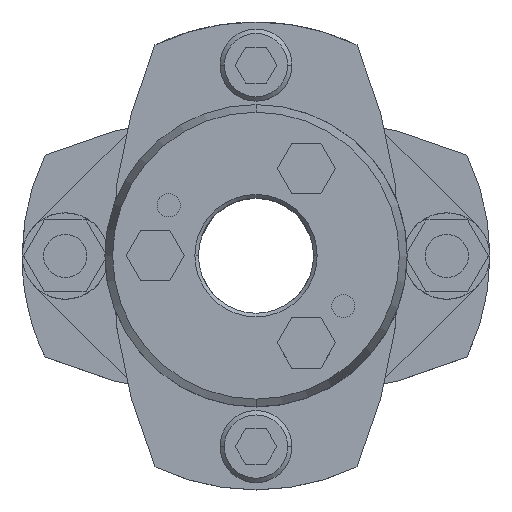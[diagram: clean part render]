
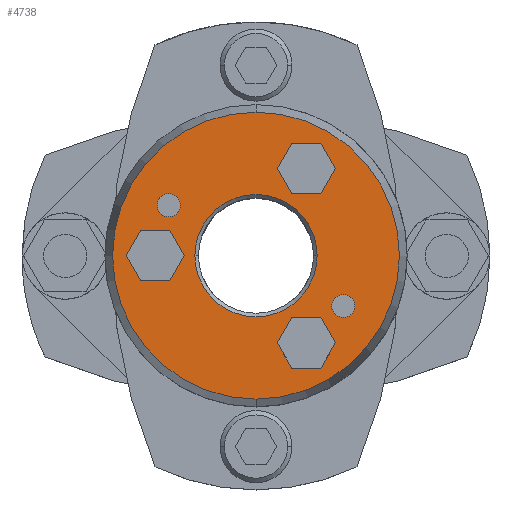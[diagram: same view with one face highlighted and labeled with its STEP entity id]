
A CAD part, top view. The second image highlights one B-rep face of the part: STEP entity #4738.
In plain terms, the highlighted planar face has unit normal (0, 0, 1).
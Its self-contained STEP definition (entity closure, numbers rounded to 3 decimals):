
#1004=CARTESIAN_POINT('',(0.,-19.928,30.75));
#1005=VERTEX_POINT('',#1004);
#1012=CARTESIAN_POINT('',(0.0,19.928,30.75));
#1013=VERTEX_POINT('',#1012);
#1014=CARTESIAN_POINT('',(0.0,0.,30.75));
#1015=DIRECTION('',(0.0,0.0,-1.0));
#1016=DIRECTION('',(0.0,-1.0,0.0));
#1017=AXIS2_PLACEMENT_3D('',#1014,#1015,#1016);
#1018=CIRCLE('',#1017,19.928);
#1019=EDGE_CURVE('',#1005,#1013,#1018,.T.);
#1114=CARTESIAN_POINT('',(-8.5,0.,30.75));
#1115=VERTEX_POINT('',#1114);
#1131=CARTESIAN_POINT('',(8.5,0.,30.75));
#1132=VERTEX_POINT('',#1131);
#1139=CARTESIAN_POINT('',(0.,0.,30.75));
#1140=DIRECTION('',(0.0,0.0,1.0));
#1141=DIRECTION('',(-1.0,0.0,0.0));
#1142=AXIS2_PLACEMENT_3D('',#1139,#1140,#1141);
#1143=CIRCLE('',#1142,8.5);
#1144=EDGE_CURVE('',#1132,#1115,#1143,.T.);
#1262=CARTESIAN_POINT('',(-13.724,7.,30.75));
#1263=VERTEX_POINT('',#1262);
#1279=CARTESIAN_POINT('',(-10.524,7.,30.75));
#1280=VERTEX_POINT('',#1279);
#1287=CARTESIAN_POINT('',(-12.124,7.,30.75));
#1288=DIRECTION('',(0.0,0.0,-1.0));
#1289=DIRECTION('',(-1.0,0.0,0.0));
#1290=AXIS2_PLACEMENT_3D('',#1287,#1288,#1289);
#1291=CIRCLE('',#1290,1.6);
#1292=EDGE_CURVE('',#1263,#1280,#1291,.T.);
#1304=CARTESIAN_POINT('',(10.524,-7.,30.75));
#1305=VERTEX_POINT('',#1304);
#1321=CARTESIAN_POINT('',(13.724,-7.,30.75));
#1322=VERTEX_POINT('',#1321);
#1329=CARTESIAN_POINT('',(12.124,-7.,30.75));
#1330=DIRECTION('',(0.0,0.0,-1.0));
#1331=DIRECTION('',(-1.0,0.0,0.0));
#1332=AXIS2_PLACEMENT_3D('',#1329,#1330,#1331);
#1333=CIRCLE('',#1332,1.6);
#1334=EDGE_CURVE('',#1305,#1322,#1333,.T.);
#3941=CARTESIAN_POINT('',(12.124,-7.,30.75));
#3942=DIRECTION('',(0.0,0.0,-1.0));
#3943=DIRECTION('',(-1.0,0.0,0.0));
#3944=AXIS2_PLACEMENT_3D('',#3941,#3942,#3943);
#3945=CIRCLE('',#3944,1.6);
#3946=EDGE_CURVE('',#1322,#1305,#3945,.T.);
#3975=CARTESIAN_POINT('',(-12.124,7.,30.75));
#3976=DIRECTION('',(0.0,0.0,-1.0));
#3977=DIRECTION('',(-1.0,0.0,0.0));
#3978=AXIS2_PLACEMENT_3D('',#3975,#3976,#3977);
#3979=CIRCLE('',#3978,1.6);
#3980=EDGE_CURVE('',#1280,#1263,#3979,.T.);
#4018=CARTESIAN_POINT('',(-18.041,0.,30.75));
#4019=VERTEX_POINT('',#4018);
#4026=CARTESIAN_POINT('',(-16.021,-3.5,30.75));
#4027=VERTEX_POINT('',#4026);
#4028=CARTESIAN_POINT('',(-16.021,-3.5,30.75));
#4029=DIRECTION('',(-0.5,0.866,0.0));
#4030=VECTOR('',#4029,4.041);
#4031=LINE('',#4028,#4030);
#4032=EDGE_CURVE('',#4027,#4019,#4031,.T.);
#4056=CARTESIAN_POINT('',(-16.021,3.5,30.75));
#4057=VERTEX_POINT('',#4056);
#4064=CARTESIAN_POINT('',(-18.041,0.,30.75));
#4065=DIRECTION('',(0.5,0.866,0.0));
#4066=VECTOR('',#4065,4.041);
#4067=LINE('',#4064,#4066);
#4068=EDGE_CURVE('',#4019,#4057,#4067,.T.);
#4087=CARTESIAN_POINT('',(-11.979,3.5,30.75));
#4088=VERTEX_POINT('',#4087);
#4095=CARTESIAN_POINT('',(-16.021,3.5,30.75));
#4096=DIRECTION('',(1.0,0.0,0.0));
#4097=VECTOR('',#4096,4.041);
#4098=LINE('',#4095,#4097);
#4099=EDGE_CURVE('',#4057,#4088,#4098,.T.);
#4118=CARTESIAN_POINT('',(-9.959,0.,30.75));
#4119=VERTEX_POINT('',#4118);
#4126=CARTESIAN_POINT('',(-11.979,3.5,30.75));
#4127=DIRECTION('',(0.5,-0.866,0.0));
#4128=VECTOR('',#4127,4.041);
#4129=LINE('',#4126,#4128);
#4130=EDGE_CURVE('',#4088,#4119,#4129,.T.);
#4149=CARTESIAN_POINT('',(-11.979,-3.5,30.75));
#4150=VERTEX_POINT('',#4149);
#4157=CARTESIAN_POINT('',(-9.959,0.,30.75));
#4158=DIRECTION('',(-0.5,-0.866,0.0));
#4159=VECTOR('',#4158,4.041);
#4160=LINE('',#4157,#4159);
#4161=EDGE_CURVE('',#4119,#4150,#4160,.T.);
#4179=CARTESIAN_POINT('',(-11.979,-3.5,30.75));
#4180=DIRECTION('',(-1.0,0.0,0.0));
#4181=VECTOR('',#4180,4.041);
#4182=LINE('',#4179,#4181);
#4183=EDGE_CURVE('',#4150,#4027,#4182,.T.);
#4218=CARTESIAN_POINT('',(2.959,-12.124,30.75));
#4219=VERTEX_POINT('',#4218);
#4226=CARTESIAN_POINT('',(4.979,-15.624,30.75));
#4227=VERTEX_POINT('',#4226);
#4228=CARTESIAN_POINT('',(4.979,-15.624,30.75));
#4229=DIRECTION('',(-0.5,0.866,0.0));
#4230=VECTOR('',#4229,4.041);
#4231=LINE('',#4228,#4230);
#4232=EDGE_CURVE('',#4227,#4219,#4231,.T.);
#4256=CARTESIAN_POINT('',(4.979,-8.624,30.75));
#4257=VERTEX_POINT('',#4256);
#4264=CARTESIAN_POINT('',(2.959,-12.124,30.75));
#4265=DIRECTION('',(0.5,0.866,0.0));
#4266=VECTOR('',#4265,4.041);
#4267=LINE('',#4264,#4266);
#4268=EDGE_CURVE('',#4219,#4257,#4267,.T.);
#4287=CARTESIAN_POINT('',(9.021,-8.624,30.75));
#4288=VERTEX_POINT('',#4287);
#4295=CARTESIAN_POINT('',(4.979,-8.624,30.75));
#4296=DIRECTION('',(1.0,0.0,0.0));
#4297=VECTOR('',#4296,4.041);
#4298=LINE('',#4295,#4297);
#4299=EDGE_CURVE('',#4257,#4288,#4298,.T.);
#4318=CARTESIAN_POINT('',(11.041,-12.124,30.75));
#4319=VERTEX_POINT('',#4318);
#4326=CARTESIAN_POINT('',(9.021,-8.624,30.75));
#4327=DIRECTION('',(0.5,-0.866,0.0));
#4328=VECTOR('',#4327,4.041);
#4329=LINE('',#4326,#4328);
#4330=EDGE_CURVE('',#4288,#4319,#4329,.T.);
#4349=CARTESIAN_POINT('',(9.021,-15.624,30.75));
#4350=VERTEX_POINT('',#4349);
#4357=CARTESIAN_POINT('',(11.041,-12.124,30.75));
#4358=DIRECTION('',(-0.5,-0.866,0.0));
#4359=VECTOR('',#4358,4.041);
#4360=LINE('',#4357,#4359);
#4361=EDGE_CURVE('',#4319,#4350,#4360,.T.);
#4379=CARTESIAN_POINT('',(9.021,-15.624,30.75));
#4380=DIRECTION('',(-1.0,0.0,0.0));
#4381=VECTOR('',#4380,4.041);
#4382=LINE('',#4379,#4381);
#4383=EDGE_CURVE('',#4350,#4227,#4382,.T.);
#4418=CARTESIAN_POINT('',(2.959,12.124,30.75));
#4419=VERTEX_POINT('',#4418);
#4426=CARTESIAN_POINT('',(4.979,8.624,30.75));
#4427=VERTEX_POINT('',#4426);
#4428=CARTESIAN_POINT('',(4.979,8.624,30.75));
#4429=DIRECTION('',(-0.5,0.866,0.0));
#4430=VECTOR('',#4429,4.041);
#4431=LINE('',#4428,#4430);
#4432=EDGE_CURVE('',#4427,#4419,#4431,.T.);
#4456=CARTESIAN_POINT('',(4.979,15.624,30.75));
#4457=VERTEX_POINT('',#4456);
#4464=CARTESIAN_POINT('',(2.959,12.124,30.75));
#4465=DIRECTION('',(0.5,0.866,0.0));
#4466=VECTOR('',#4465,4.041);
#4467=LINE('',#4464,#4466);
#4468=EDGE_CURVE('',#4419,#4457,#4467,.T.);
#4487=CARTESIAN_POINT('',(9.021,15.624,30.75));
#4488=VERTEX_POINT('',#4487);
#4495=CARTESIAN_POINT('',(4.979,15.624,30.75));
#4496=DIRECTION('',(1.0,0.0,0.0));
#4497=VECTOR('',#4496,4.041);
#4498=LINE('',#4495,#4497);
#4499=EDGE_CURVE('',#4457,#4488,#4498,.T.);
#4518=CARTESIAN_POINT('',(11.041,12.124,30.75));
#4519=VERTEX_POINT('',#4518);
#4526=CARTESIAN_POINT('',(9.021,15.624,30.75));
#4527=DIRECTION('',(0.5,-0.866,0.0));
#4528=VECTOR('',#4527,4.041);
#4529=LINE('',#4526,#4528);
#4530=EDGE_CURVE('',#4488,#4519,#4529,.T.);
#4549=CARTESIAN_POINT('',(9.021,8.624,30.75));
#4550=VERTEX_POINT('',#4549);
#4557=CARTESIAN_POINT('',(11.041,12.124,30.75));
#4558=DIRECTION('',(-0.5,-0.866,0.0));
#4559=VECTOR('',#4558,4.041);
#4560=LINE('',#4557,#4559);
#4561=EDGE_CURVE('',#4519,#4550,#4560,.T.);
#4579=CARTESIAN_POINT('',(9.021,8.624,30.75));
#4580=DIRECTION('',(-1.0,0.0,0.0));
#4581=VECTOR('',#4580,4.041);
#4582=LINE('',#4579,#4581);
#4583=EDGE_CURVE('',#4550,#4427,#4582,.T.);
#4675=CARTESIAN_POINT('',(0.,0.,30.75));
#4676=DIRECTION('',(0.0,0.0,1.0));
#4677=DIRECTION('',(-1.0,0.0,0.0));
#4678=AXIS2_PLACEMENT_3D('',#4675,#4676,#4677);
#4679=CIRCLE('',#4678,8.5);
#4680=EDGE_CURVE('',#1115,#1132,#4679,.T.);
#4687=CARTESIAN_POINT('',(0.,-9.964,30.75));
#4688=DIRECTION('',(0.0,0.0,1.0));
#4689=DIRECTION('',(-1.0,0.0,0.0));
#4690=AXIS2_PLACEMENT_3D('',#4687,#4688,#4689);
#4691=PLANE('',#4690);
#4692=ORIENTED_EDGE('',*,*,#1019,.F.);
#4693=CARTESIAN_POINT('',(0.0,0.,30.75));
#4694=DIRECTION('',(0.0,0.0,-1.0));
#4695=DIRECTION('',(0.0,-1.0,0.0));
#4696=AXIS2_PLACEMENT_3D('',#4693,#4694,#4695);
#4697=CIRCLE('',#4696,19.928);
#4698=EDGE_CURVE('',#1013,#1005,#4697,.T.);
#4699=ORIENTED_EDGE('',*,*,#4698,.F.);
#4700=EDGE_LOOP('',(#4692,#4699));
#4701=FACE_OUTER_BOUND('',#4700,.T.);
#4702=ORIENTED_EDGE('',*,*,#1334,.T.);
#4703=ORIENTED_EDGE('',*,*,#3946,.T.);
#4704=EDGE_LOOP('',(#4702,#4703));
#4705=FACE_BOUND('',#4704,.T.);
#4706=ORIENTED_EDGE('',*,*,#1292,.T.);
#4707=ORIENTED_EDGE('',*,*,#3980,.T.);
#4708=EDGE_LOOP('',(#4706,#4707));
#4709=FACE_BOUND('',#4708,.T.);
#4710=ORIENTED_EDGE('',*,*,#4032,.T.);
#4711=ORIENTED_EDGE('',*,*,#4068,.T.);
#4712=ORIENTED_EDGE('',*,*,#4099,.T.);
#4713=ORIENTED_EDGE('',*,*,#4130,.T.);
#4714=ORIENTED_EDGE('',*,*,#4161,.T.);
#4715=ORIENTED_EDGE('',*,*,#4183,.T.);
#4716=EDGE_LOOP('',(#4710,#4711,#4712,#4713,#4714,#4715));
#4717=FACE_BOUND('',#4716,.T.);
#4718=ORIENTED_EDGE('',*,*,#4232,.T.);
#4719=ORIENTED_EDGE('',*,*,#4268,.T.);
#4720=ORIENTED_EDGE('',*,*,#4299,.T.);
#4721=ORIENTED_EDGE('',*,*,#4330,.T.);
#4722=ORIENTED_EDGE('',*,*,#4361,.T.);
#4723=ORIENTED_EDGE('',*,*,#4383,.T.);
#4724=EDGE_LOOP('',(#4718,#4719,#4720,#4721,#4722,#4723));
#4725=FACE_BOUND('',#4724,.T.);
#4726=ORIENTED_EDGE('',*,*,#4432,.T.);
#4727=ORIENTED_EDGE('',*,*,#4468,.T.);
#4728=ORIENTED_EDGE('',*,*,#4499,.T.);
#4729=ORIENTED_EDGE('',*,*,#4530,.T.);
#4730=ORIENTED_EDGE('',*,*,#4561,.T.);
#4731=ORIENTED_EDGE('',*,*,#4583,.T.);
#4732=EDGE_LOOP('',(#4726,#4727,#4728,#4729,#4730,#4731));
#4733=FACE_BOUND('',#4732,.T.);
#4734=ORIENTED_EDGE('',*,*,#1144,.F.);
#4735=ORIENTED_EDGE('',*,*,#4680,.F.);
#4736=EDGE_LOOP('',(#4734,#4735));
#4737=FACE_BOUND('',#4736,.T.);
#4738=ADVANCED_FACE('',(#4701,#4705,#4709,#4717,#4725,#4733,#4737),#4691,.T.);
